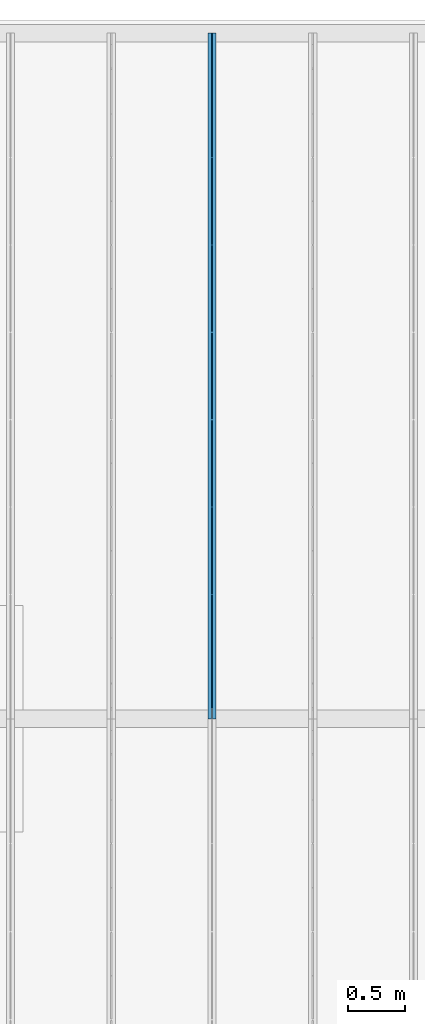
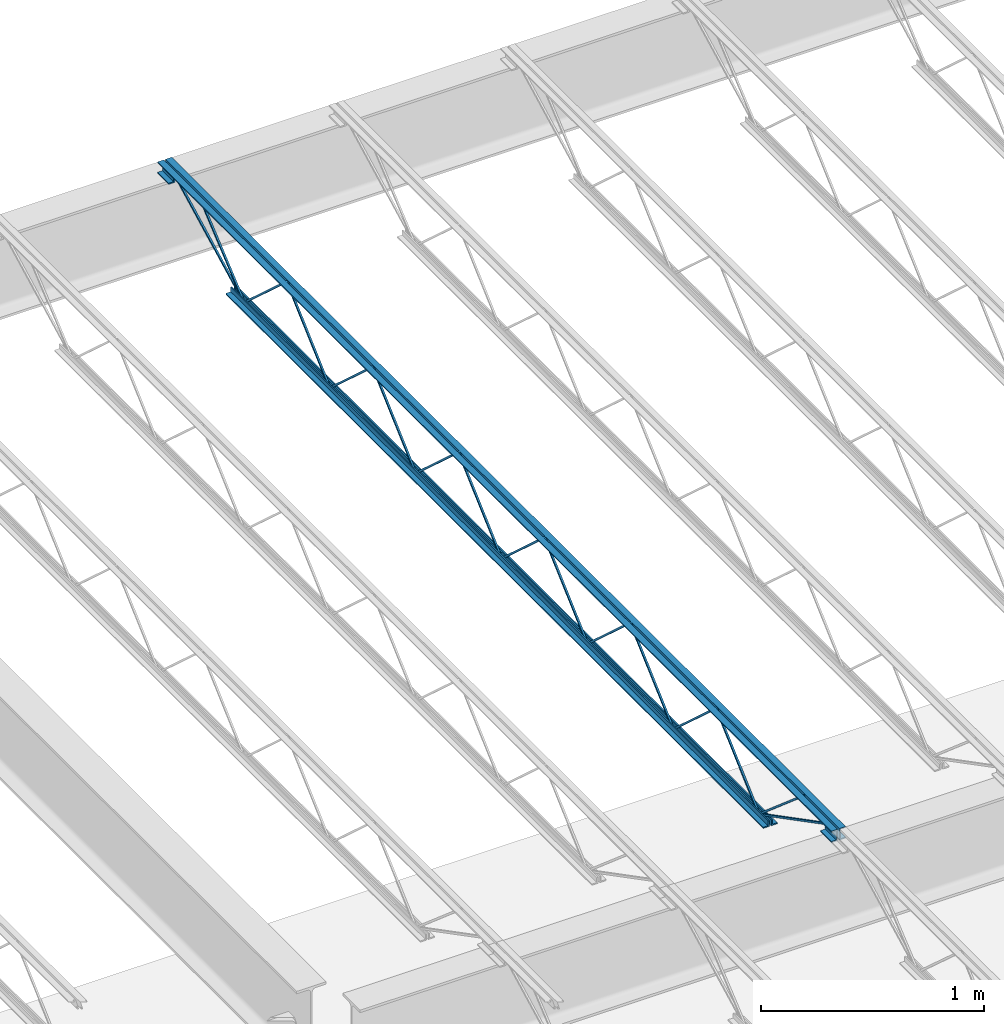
# One storey, part 52 of 75: 1 beam.
"""IFC2X3 building model written with IfcOpenShell, lengths in metres."""

from ifc_helpers import new_model, entity, si_unit, converted_unit, frame, origin, place, context, project, spatial, face_set, surface_model, element, save


model = new_model("IFC2X3")

# Units and contexts
model_context = context("Model", 3, precision=1e-09, world=origin())
plan_context = context("Plan", 3, precision=1e-09, world=origin())
ifc_project = project(units=[si_unit("LENGTHUNIT", "METRE"), si_unit("AREAUNIT", "SQUARE_METRE"), si_unit("VOLUMEUNIT", "CUBIC_METRE"), converted_unit("PLANEANGLEUNIT", "DEGREE", entity("IfcRatioMeasure", 0.01745329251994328), si_unit("PLANEANGLEUNIT", "RADIAN"), dimensions=[0, 0, 0, 0, 0, 0, 0]), si_unit("TIMEUNIT", "SECOND")], contexts=[model_context, plan_context])

# Site, building, storey
site_placement = place(None, origin())
site = spatial("IfcSite", under=ifc_project, at=site_placement, Name="Default", CompositionType="ELEMENT")
building_placement = place(site_placement, origin())
building = spatial("IfcBuilding", under=site, at=building_placement, CompositionType="ELEMENT")
storey_placement = place(building_placement, origin())
storey = spatial("IfcBuildingStorey", under=building, at=storey_placement, Name="First Floor", CompositionType="ELEMENT", Elevation=-3.531500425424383e-13)

# Beam
beam_placement = place(storey_placement, frame((-30.92049999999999, 50.09000000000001, 4.112000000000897), z_axis=(0.0, 0.0, 1.0), x_axis=(-1.0, 0.0, 0.0)))
element("IfcBeam", 1, at=beam_placement, inside=storey, Name="M_K-Series Bar Joist-Rod Web:14K1:14K1", ObjectType="M_K-Series Bar Joist-Rod Web:14K1", context=model_context, shape_type="SurfaceModel", body=[
    surface_model("IfcFaceBasedSurfaceModel", [(-0.03200000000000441, -2.254000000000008, 0.01110000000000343), (-0.04150000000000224, -2.254000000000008, 0.01110000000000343), (-0.04150000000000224, -2.254000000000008, 0.001600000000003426), (-0.03200000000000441, -2.254000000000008, 0.001600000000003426), (-0.04150000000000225, -2.252655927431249, 0.01110000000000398), (-0.03200000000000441, -2.252655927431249, 0.01110000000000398), (-0.04150000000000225, -2.248994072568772, 0.001600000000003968), (-0.04150000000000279, -1.869844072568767, 0.3449000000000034), (-0.0415000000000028, -1.86715592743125, 0.3449000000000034), (-0.04149999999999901, -1.48800592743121, 0.001600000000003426), (-0.04149999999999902, -1.483000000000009, 0.001600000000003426), (-0.04150000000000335, -1.483000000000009, 0.01110000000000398), (-0.04150000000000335, -1.484344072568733, 0.01110000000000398), (-0.04150000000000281, -1.863494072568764, 0.3544000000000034), (-0.04150000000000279, -1.873505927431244, 0.3544000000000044), (-0.03200000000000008, -2.248994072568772, 0.001600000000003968), (-0.03200000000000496, -1.869844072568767, 0.3449000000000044), (-0.03200000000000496, -1.86715592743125, 0.3449000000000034), (-0.0320000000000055, -1.48800592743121, 0.001600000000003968), (-0.03200000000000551, -1.483000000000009, 0.001600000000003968), (-0.03200000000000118, -1.483000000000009, 0.01110000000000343), (-0.03200000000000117, -1.484344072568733, 0.01110000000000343), (-0.03200000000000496, -1.863494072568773, 0.3544000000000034), (-0.03200000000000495, -1.873505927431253, 0.3544000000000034), (-0.0320000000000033, -3.025000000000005, 0.01110000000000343), (-0.04150000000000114, -3.025000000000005, 0.01110000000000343), (-0.04150000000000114, -3.025000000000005, 0.001600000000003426), (-0.0320000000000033, -3.025000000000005, 0.001600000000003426), (-0.04150000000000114, -3.023655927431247, 0.01110000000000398), (-0.0320000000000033, -3.023655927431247, 0.01110000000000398), (-0.04150000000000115, -3.01999407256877, 0.001600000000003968), (-0.04150000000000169, -2.640844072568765, 0.3449000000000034), (-0.04150000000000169, -2.638155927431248, 0.3449000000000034), (-0.04150000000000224, -2.259005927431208, 0.001600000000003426), (-0.04150000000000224, -2.254000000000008, 0.01110000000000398), (-0.04150000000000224, -2.255344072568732, 0.01110000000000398), (-0.0415000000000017, -2.634494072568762, 0.3544000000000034), (-0.04150000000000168, -2.644505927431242, 0.3544000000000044), (-0.03199999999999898, -3.01999407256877, 0.001600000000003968), (-0.03200000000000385, -2.640844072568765, 0.3449000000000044), (-0.03200000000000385, -2.638155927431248, 0.3449000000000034), (-0.03200000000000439, -2.259005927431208, 0.001600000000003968), (-0.03200000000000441, -2.254000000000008, 0.001600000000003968), (-0.0320000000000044, -2.255344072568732, 0.01110000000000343), (-0.03200000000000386, -2.634494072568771, 0.3544000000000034), (-0.03200000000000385, -2.644505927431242, 0.3544000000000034), (-0.03200000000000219, -3.796000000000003, 0.01110000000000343), (-0.04150000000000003, -3.796000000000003, 0.01110000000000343), (-0.04150000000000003, -3.796000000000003, 0.001600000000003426), (-0.03200000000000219, -3.796000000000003, 0.001600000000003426), (-0.04150000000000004, -3.794655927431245, 0.01110000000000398), (-0.03200000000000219, -3.794655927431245, 0.01110000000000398), (-0.04150000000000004, -3.790994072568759, 0.001600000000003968), (-0.04150000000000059, -3.411844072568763, 0.3449000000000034), (-0.04150000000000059, -3.409155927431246, 0.3449000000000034), (-0.04150000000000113, -3.030005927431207, 0.001600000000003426), (-0.04150000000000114, -3.025000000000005, 0.01110000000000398), (-0.04150000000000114, -3.026344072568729, 0.01110000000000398), (-0.0415000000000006, -3.40549407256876, 0.3544000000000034), (-0.04150000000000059, -3.41550592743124, 0.3544000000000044), (-0.03199999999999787, -3.790994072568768, 0.001600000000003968), (-0.03200000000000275, -3.411844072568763, 0.3449000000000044), (-0.03200000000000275, -3.409155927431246, 0.3449000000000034), (-0.03200000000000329, -3.030005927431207, 0.001600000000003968), (-0.0320000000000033, -3.025000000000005, 0.001600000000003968), (-0.0320000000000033, -3.026344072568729, 0.01110000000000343), (-0.03200000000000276, -3.40549407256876, 0.3544000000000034), (-0.03200000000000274, -3.41550592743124, 0.3544000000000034), (-0.03200000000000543, -4.567000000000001, 0.01110000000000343), (-0.04150000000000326, -4.567000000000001, 0.01110000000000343), (-0.04150000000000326, -4.567000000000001, 0.001600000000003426), (-0.03200000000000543, -4.567000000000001, 0.001600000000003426), (-0.04150000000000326, -4.565655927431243, 0.01110000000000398), (-0.03200000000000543, -4.565655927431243, 0.01110000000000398), (-0.04150000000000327, -4.561994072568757, 0.001600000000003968), (-0.04149999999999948, -4.182844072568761, 0.3449000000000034), (-0.04149999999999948, -4.180155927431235, 0.3449000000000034), (-0.04150000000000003, -3.801005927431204, 0.001600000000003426), (-0.04150000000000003, -3.795999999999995, 0.001600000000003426), (-0.04150000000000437, -3.796000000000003, 0.01110000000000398), (-0.04150000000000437, -3.797344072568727, 0.01110000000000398), (-0.04150000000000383, -4.176494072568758, 0.3544000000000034), (-0.04150000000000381, -4.186505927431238, 0.3544000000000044), (-0.0320000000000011, -4.561994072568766, 0.001600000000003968), (-0.03200000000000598, -4.182844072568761, 0.3449000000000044), (-0.03200000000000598, -4.180155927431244, 0.3449000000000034), (-0.03200000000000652, -3.801005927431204, 0.001600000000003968), (-0.03200000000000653, -3.796000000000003, 0.001600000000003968), (-0.03200000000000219, -3.795999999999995, 0.01110000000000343), (-0.03200000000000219, -3.797344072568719, 0.01110000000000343), (-0.03200000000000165, -4.176494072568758, 0.3544000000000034), (-0.03200000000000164, -4.186505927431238, 0.3544000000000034), (-0.03200000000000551, -1.483000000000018, 0.01109999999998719), (-0.04150000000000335, -1.483000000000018, 0.01109999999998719), (-0.04150000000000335, -1.483000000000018, 0.001599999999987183), (-0.03200000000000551, -1.483000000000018, 0.001599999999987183), (-0.04149999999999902, -1.48165592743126, 0.01109999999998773), (-0.03200000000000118, -1.48165592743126, 0.01109999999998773), (-0.04150000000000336, -1.477994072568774, 0.001599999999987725), (-0.0415000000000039, -1.098844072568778, 0.3448999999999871), (-0.0415000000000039, -1.096155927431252, 0.3448999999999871), (-0.04150000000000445, -0.717005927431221, 0.001599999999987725), (-0.04150000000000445, -0.7120000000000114, 0.001599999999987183), (-0.04150000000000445, -0.7120000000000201, 0.01109999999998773), (-0.04150000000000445, -0.713344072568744, 0.01109999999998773), (-0.04150000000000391, -1.092494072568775, 0.3543999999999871), (-0.04150000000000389, -1.102505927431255, 0.3543999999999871), (-0.03200000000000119, -1.477994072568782, 0.001599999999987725), (-0.03200000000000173, -1.098844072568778, 0.3448999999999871), (-0.03200000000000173, -1.09615592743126, 0.3448999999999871), (-0.03200000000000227, -0.717005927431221, 0.001599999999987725), (-0.03200000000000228, -0.7120000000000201, 0.001599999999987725), (-0.03200000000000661, -0.7120000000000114, 0.01109999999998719), (-0.03200000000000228, -0.7133440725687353, 0.01109999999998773), (-0.03200000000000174, -1.092494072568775, 0.3543999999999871), (-0.03200000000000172, -1.102505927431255, 0.3543999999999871), (-0.03200000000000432, -5.33799999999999, 0.01110000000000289), (-0.04150000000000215, -5.33799999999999, 0.01110000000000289), (-0.04150000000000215, -5.33799999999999, 0.001600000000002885), (-0.03200000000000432, -5.33799999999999, 0.001600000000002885), (-0.04150000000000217, -5.336655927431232, 0.01110000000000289), (-0.03200000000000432, -5.336655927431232, 0.01110000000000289), (-0.04150000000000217, -5.332994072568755, 0.001600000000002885), (-0.04150000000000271, -4.95384407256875, 0.3449000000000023), (-0.04150000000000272, -4.951155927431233, 0.3449000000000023), (-0.04150000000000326, -4.572005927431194, 0.001600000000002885), (-0.04150000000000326, -4.566999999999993, 0.001600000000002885), (-0.04150000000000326, -4.566999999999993, 0.01110000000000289), (-0.04150000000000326, -4.568344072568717, 0.01110000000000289), (-0.04150000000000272, -4.947494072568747, 0.3544000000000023), (-0.04150000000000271, -4.957505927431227, 0.3544000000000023), (-0.03199999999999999, -5.332994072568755, 0.001600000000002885), (-0.03200000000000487, -4.95384407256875, 0.3449000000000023), (-0.03200000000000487, -4.951155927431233, 0.3449000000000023), (-0.03200000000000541, -4.572005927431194, 0.001600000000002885), (-0.03200000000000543, -4.566999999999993, 0.001600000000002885), (-0.03200000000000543, -4.566999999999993, 0.01110000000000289), (-0.03200000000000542, -4.568344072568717, 0.01110000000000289), (-0.03200000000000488, -4.947494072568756, 0.3544000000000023), (-0.03200000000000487, -4.957505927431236, 0.3544000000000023), (-0.04150000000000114, 0.0, 0.3559999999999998), (-0.07350000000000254, 0.0, 0.3559999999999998), (-0.07350000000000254, 0.0, 0.349499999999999), (-0.04799999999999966, 0.0, 0.349499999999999), (-0.04799999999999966, 0.0, 0.3239999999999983), (-0.04150000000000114, 0.0, 0.3239999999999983), (-0.0320000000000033, 0.0, 0.3559999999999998), (-0.0320000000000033, 0.0, 0.3239999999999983), (-0.02550000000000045, 0.0, 0.3239999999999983), (-0.02550000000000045, 0.0, 0.349499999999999), (0.0, 0.0, 0.349499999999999), (0.0, 0.0, 0.3559999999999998), (-0.04150000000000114, -6.049999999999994, 0.3559999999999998), (-0.07350000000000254, -6.049999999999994, 0.3559999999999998), (-0.07350000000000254, -6.049999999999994, 0.349499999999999), (-0.04799999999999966, -6.049999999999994, 0.349499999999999), (-0.04799999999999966, -6.049999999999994, 0.3239999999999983), (-0.04150000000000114, -6.049999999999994, 0.3239999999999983), (-0.0320000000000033, -6.049999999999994, 0.3559999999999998), (-0.0320000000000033, -6.049999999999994, 0.3239999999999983), (-0.02550000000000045, -6.049999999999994, 0.3239999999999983), (-0.02550000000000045, -6.049999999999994, 0.349499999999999), (0.0, -6.049999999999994, 0.349499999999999), (0.0, -6.049999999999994, 0.3559999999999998), (-0.03200000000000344, -5.950000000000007, 0.2924999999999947), (0.0, -5.950000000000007, 0.2924999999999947), (0.0, -5.950000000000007, 0.2989999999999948), (-0.02550000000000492, -5.950000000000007, 0.2989999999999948), (-0.02550000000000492, -5.950000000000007, 0.3239999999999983), (-0.03200000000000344, -5.950000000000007, 0.3239999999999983), (-0.07350000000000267, -5.950000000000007, 0.2924999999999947), (-0.04150000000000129, -5.950000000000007, 0.2924999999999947), (-0.04150000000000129, -5.950000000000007, 0.3239999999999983), (-0.04800000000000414, -5.950000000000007, 0.3239999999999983), (-0.04800000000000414, -5.950000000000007, 0.2989999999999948), (-0.07350000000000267, -5.950000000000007, 0.2989999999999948), (-0.0320000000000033, -6.049999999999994, 0.2924999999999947), (0.0, -6.049999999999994, 0.2924999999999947), (0.0, -6.049999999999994, 0.2989999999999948), (-0.02550000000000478, -6.049999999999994, 0.2989999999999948), (-0.02550000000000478, -6.049999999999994, 0.3239999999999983), (-0.07350000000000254, -6.049999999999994, 0.2924999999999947), (-0.04150000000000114, -6.049999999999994, 0.2924999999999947), (-0.048000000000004, -6.049999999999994, 0.3239999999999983), (-0.048000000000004, -6.049999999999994, 0.2989999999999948), (-0.07350000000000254, -6.049999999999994, 0.2989999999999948), (-0.04150000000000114, 0.0, 0.2924999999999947), (-0.048000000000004, 0.0, 0.3239999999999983), (-0.048000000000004, 0.0, 0.2989999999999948), (-0.07350000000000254, 0.0, 0.2989999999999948), (-0.07350000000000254, 0.0, 0.2924999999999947), (-0.0320000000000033, 0.0, 0.2924999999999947), (0.0, 0.0, 0.2924999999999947), (0.0, 0.0, 0.2989999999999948), (-0.02550000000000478, 0.0, 0.2989999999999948), (-0.02550000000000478, 0.0, 0.3239999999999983), (-0.04150000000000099, -0.0999999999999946, 0.2924999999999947), (-0.04150000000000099, -0.0999999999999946, 0.3239999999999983), (-0.04800000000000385, -0.0999999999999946, 0.3239999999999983), (-0.04800000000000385, -0.0999999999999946, 0.2989999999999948), (-0.07350000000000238, -0.0999999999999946, 0.2989999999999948), (-0.07350000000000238, -0.0999999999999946, 0.2924999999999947), (-0.03200000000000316, -0.0999999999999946, 0.2924999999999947), (0.0, -0.0999999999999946, 0.2924999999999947), (0.0, -0.0999999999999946, 0.2989999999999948), (-0.02550000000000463, -0.0999999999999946, 0.2989999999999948), (-0.02550000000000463, -0.0999999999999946, 0.3239999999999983), (-0.03200000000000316, -0.0999999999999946, 0.3239999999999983), (-0.04150000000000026, -0.6119999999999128, 0.0), (-0.04150000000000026, -0.6119999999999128, 0.03199999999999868), (-0.04799999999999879, -0.6119999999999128, 0.03199999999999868), (-0.04799999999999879, -0.6119999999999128, 0.006499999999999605), (-0.07350000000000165, -0.6119999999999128, 0.006499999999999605), (-0.07350000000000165, -0.6119999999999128, 0.0), (-0.03200000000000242, -0.6119999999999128, 0.0), (0.0, -0.6119999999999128, 0.0), (0.0, -0.6119999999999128, 0.006499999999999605), (-0.02549999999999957, -0.6119999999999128, 0.006499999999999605), (-0.02549999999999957, -0.6119999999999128, 0.03199999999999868), (-0.03200000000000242, -0.6119999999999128, 0.03199999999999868), (-0.04150000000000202, -5.437999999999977, 0.0), (-0.04150000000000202, -5.437999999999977, 0.03199999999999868), (-0.04800000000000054, -5.437999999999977, 0.03199999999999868), (-0.04800000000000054, -5.437999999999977, 0.006499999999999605), (-0.07350000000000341, -5.437999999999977, 0.006499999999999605), (-0.07350000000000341, -5.437999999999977, 0.0), (-0.03200000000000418, -5.437999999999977, 0.0), (0.0, -5.437999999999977, 0.0), (0.0, -5.437999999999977, 0.006499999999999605), (-0.02550000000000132, -5.437999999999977, 0.006499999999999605), (-0.02550000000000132, -5.437999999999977, 0.03199999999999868), (-0.03200000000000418, -5.437999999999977, 0.03199999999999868), (-0.03200000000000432, -5.335811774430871, 0.01056594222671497), (-0.04150000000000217, -5.335811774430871, 0.01056594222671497), (-0.04150000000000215, -5.34018822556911, 0.002134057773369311), (-0.03200000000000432, -5.34018822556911, 0.002134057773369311), (-0.03200000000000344, -5.948840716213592, 0.3287499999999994), (-0.0320000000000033, -6.049999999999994, 0.3287499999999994), (-0.0320000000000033, -6.049999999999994, 0.3192499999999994), (-0.03200000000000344, -5.951159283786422, 0.3192499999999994), (-0.04150000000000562, -5.951159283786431, 0.3192499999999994), (-0.04150000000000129, -5.948840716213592, 0.3287499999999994), (-0.04150000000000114, -6.049999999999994, 0.3287499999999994), (-0.04150000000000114, -6.049999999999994, 0.3192499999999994), (-0.03200000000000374, -5.743457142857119, 0.341700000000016), (-0.04150000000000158, -5.743457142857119, 0.341700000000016), (-0.04150000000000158, -5.743457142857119, 0.332200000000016), (-0.03200000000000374, -5.743457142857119, 0.332200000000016), (-0.0415000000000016, -5.729024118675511, 0.341700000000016), (-0.03200000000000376, -5.729024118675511, 0.341700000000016), (-0.0415000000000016, -5.732490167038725, 0.332200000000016), (-0.04150000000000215, -5.341058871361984, 0.002716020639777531), (-0.04150000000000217, -5.334941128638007, 0.009983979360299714), (-0.03199999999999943, -5.732490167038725, 0.332200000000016), (-0.03200000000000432, -5.341058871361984, 0.002716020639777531), (-0.03200000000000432, -5.334941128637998, 0.009983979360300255), (-0.03200000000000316, -0.09781177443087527, 0.3197840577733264), (-0.03200000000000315, -0.1021882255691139, 0.3282159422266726), (-0.04150000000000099, -0.1021882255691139, 0.3282159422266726), (-0.04150000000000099, -0.09781177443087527, 0.3197840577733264), (-0.03200000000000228, -0.7098117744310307, 0.002134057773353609), (-0.03200000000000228, -0.7141882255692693, 0.01056594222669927), (-0.04150000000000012, -0.7141882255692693, 0.01056594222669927), (-0.04150000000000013, -0.7098117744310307, 0.002134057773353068), (-0.03200000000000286, -0.3088922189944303, 0.3460454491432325), (-0.03200000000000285, -0.3150792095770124, 0.3532545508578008), (-0.04150000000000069, -0.3150792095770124, 0.3532545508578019), (-0.0415000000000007, -0.3088922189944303, 0.3460454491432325), (-0.03200000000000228, -0.7089065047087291, 0.002745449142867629), (-0.03200000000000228, -0.715093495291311, 0.009954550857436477), (-0.04150000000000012, -0.715093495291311, 0.009954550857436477), (-0.04150000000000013, -0.7089065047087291, 0.002745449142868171)], [face_set([[[0, 1, 2, 3]], [[1, 4, 5, 0]], [[2, 6, 7, 8, 9, 10, 11, 12, 13, 14, 4, 1]], [[3, 2, 6, 15]], [[0, 3, 15, 16, 17, 18, 19, 20, 21, 22, 23, 5]], [[4, 5, 23, 14]], [[15, 16, 7, 6]], [[14, 13, 22, 23]], [[16, 7, 8, 17]], [[13, 12, 21, 22]], [[17, 8, 9, 18]], [[20, 11, 10, 19]], [[12, 11, 20, 21]], [[18, 9, 10, 19]]]), face_set([[[24, 25, 26, 27]], [[25, 28, 29, 24]], [[26, 30, 31, 32, 33, 2, 34, 35, 36, 37, 28, 25]], [[27, 26, 30, 38]], [[24, 27, 38, 39, 40, 41, 42, 0, 43, 44, 45, 29]], [[28, 29, 45, 37]], [[38, 39, 31, 30]], [[37, 36, 44, 45]], [[39, 31, 32, 40]], [[36, 35, 43, 44]], [[40, 32, 33, 41]], [[0, 34, 2, 42]], [[35, 34, 0, 43]], [[41, 33, 2, 42]]]), face_set([[[46, 47, 48, 49]], [[47, 50, 51, 46]], [[48, 52, 53, 54, 55, 26, 56, 57, 58, 59, 50, 47]], [[49, 48, 52, 60]], [[46, 49, 60, 61, 62, 63, 64, 24, 65, 66, 67, 51]], [[50, 51, 67, 59]], [[60, 61, 53, 52]], [[59, 58, 66, 67]], [[61, 53, 54, 62]], [[58, 57, 65, 66]], [[62, 54, 55, 63]], [[24, 56, 26, 64]], [[57, 56, 24, 65]], [[63, 55, 26, 64]]]), face_set([[[68, 69, 70, 71]], [[69, 72, 73, 68]], [[70, 74, 75, 76, 77, 78, 79, 80, 81, 82, 72, 69]], [[71, 70, 74, 83]], [[68, 71, 83, 84, 85, 86, 87, 88, 89, 90, 91, 73]], [[72, 73, 91, 82]], [[83, 84, 75, 74]], [[82, 81, 90, 91]], [[84, 75, 76, 85]], [[81, 80, 89, 90]], [[85, 76, 77, 86]], [[88, 79, 78, 87]], [[80, 79, 88, 89]], [[86, 77, 78, 87]]]), face_set([[[92, 93, 94, 95]], [[93, 96, 97, 92]], [[94, 98, 99, 100, 101, 102, 103, 104, 105, 106, 96, 93]], [[95, 94, 98, 107]], [[92, 95, 107, 108, 109, 110, 111, 112, 113, 114, 115, 97]], [[96, 97, 115, 106]], [[107, 108, 99, 98]], [[106, 105, 114, 115]], [[108, 99, 100, 109]], [[105, 104, 113, 114]], [[109, 100, 101, 110]], [[112, 103, 102, 111]], [[104, 103, 112, 113]], [[110, 101, 102, 111]]]), face_set([[[116, 117, 118, 119]], [[117, 120, 121, 116]], [[118, 122, 123, 124, 125, 126, 127, 128, 129, 130, 120, 117]], [[119, 118, 122, 131]], [[116, 119, 131, 132, 133, 134, 135, 136, 137, 138, 139, 121]], [[120, 121, 139, 130]], [[131, 132, 123, 122]], [[130, 129, 138, 139]], [[132, 123, 124, 133]], [[129, 128, 137, 138]], [[133, 124, 125, 134]], [[136, 127, 126, 135]], [[128, 127, 136, 137]], [[134, 125, 126, 135]]]), face_set([[[140, 141, 142, 143, 144, 145]], [[146, 147, 148, 149, 150, 151]], [[152, 153, 154, 155, 156, 157]], [[158, 159, 160, 161, 162, 163]], [[145, 140, 152, 157]], [[144, 145, 157, 156]], [[143, 155, 156, 144]], [[142, 143, 155, 154]], [[141, 153, 154, 142]], [[140, 152, 153, 141]], [[151, 163, 158, 146]], [[150, 151, 163, 162]], [[149, 150, 162, 161]], [[148, 149, 161, 160]], [[147, 148, 160, 159]], [[146, 158, 159, 147]]]), face_set([[[164, 165, 166, 167, 168, 169]], [[170, 171, 172, 173, 174, 175]], [[176, 177, 178, 179, 180, 159]], [[181, 182, 157, 183, 184, 185]], [[169, 159, 176, 164]], [[168, 180, 159, 169]], [[167, 168, 180, 179]], [[166, 178, 179, 167]], [[165, 166, 178, 177]], [[164, 165, 177, 176]], [[175, 185, 181, 170]], [[174, 184, 185, 175]], [[173, 183, 184, 174]], [[172, 157, 183, 173]], [[171, 172, 157, 182]], [[170, 171, 182, 181]]]), face_set([[[186, 145, 187, 188, 189, 190]], [[191, 192, 193, 194, 195, 147]], [[196, 197, 198, 199, 200, 201]], [[202, 203, 204, 205, 206, 207]], [[190, 186, 196, 201]], [[189, 200, 201, 190]], [[188, 199, 200, 189]], [[187, 198, 199, 188]], [[145, 197, 198, 187]], [[186, 145, 197, 196]], [[147, 207, 202, 191]], [[195, 206, 207, 147]], [[194, 195, 206, 205]], [[193, 204, 205, 194]], [[192, 193, 204, 203]], [[191, 192, 203, 202]]]), face_set([[[208, 209, 210, 211, 212, 213]], [[214, 215, 216, 217, 218, 219]], [[220, 221, 222, 223, 224, 225]], [[226, 227, 228, 229, 230, 231]], [[213, 208, 220, 225]], [[212, 224, 225, 213]], [[211, 223, 224, 212]], [[210, 222, 223, 211]], [[209, 221, 222, 210]], [[208, 209, 221, 220]], [[219, 231, 226, 214]], [[218, 230, 231, 219]], [[217, 218, 230, 229]], [[216, 228, 229, 217]], [[215, 216, 228, 227]], [[214, 215, 227, 226]]]), face_set([[[232, 233, 234, 235]], [[235, 232, 236, 237, 238, 239]], [[234, 235, 239, 240]], [[233, 241, 242, 243, 240, 234]], [[232, 236, 241, 233]], [[237, 242, 243, 238]], [[240, 239, 238, 243]], [[236, 237, 242, 241]]]), face_set([[[244, 245, 246, 247]], [[245, 248, 249, 244]], [[246, 250, 251, 252, 248, 245]], [[247, 246, 250, 253]], [[244, 247, 253, 254, 255, 249]], [[255, 252, 251, 254]], [[248, 252, 255, 249]], [[253, 250, 251, 254]]]), face_set([[[256, 257, 258, 259]], [[260, 261, 262, 263]], [[259, 263, 260, 256]], [[258, 262, 263, 259]], [[257, 258, 262, 261]], [[256, 257, 261, 260]]]), face_set([[[264, 265, 266, 267]], [[268, 269, 270, 271]], [[267, 271, 268, 264]], [[266, 270, 271, 267]], [[265, 266, 270, 269]], [[264, 265, 269, 268]]])]),
])

save(model, "model.ifc")
